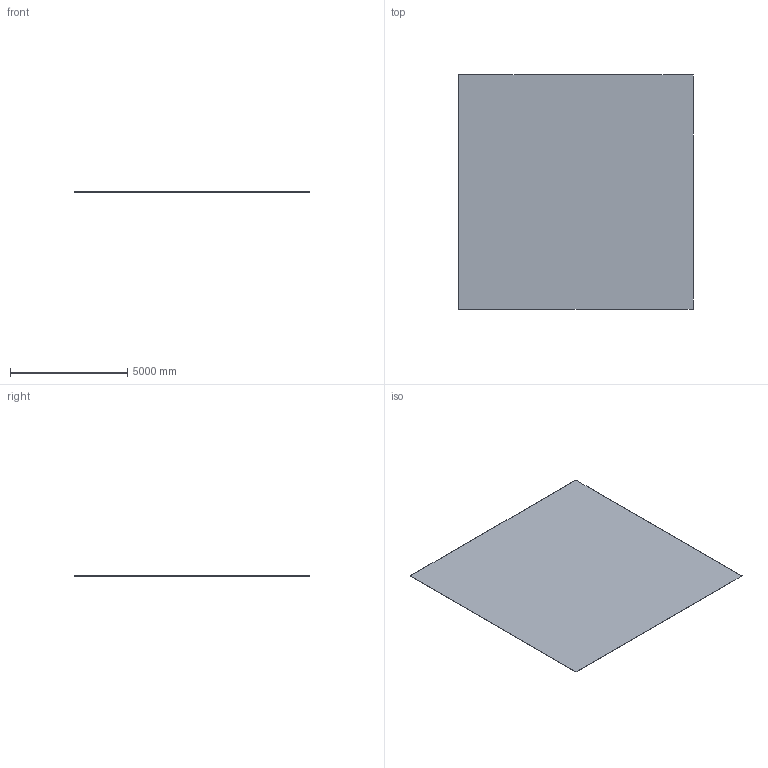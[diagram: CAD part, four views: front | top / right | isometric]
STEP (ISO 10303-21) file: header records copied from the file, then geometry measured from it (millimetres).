
FILE_DESCRIPTION(('Open CASCADE Model'),'2;1');
FILE_NAME('Open CASCADE Shape Model','2024-10-15T11:57:15',('Author'),( 'Open CASCADE'),'Open CASCADE STEP processor 7.8','Open CASCADE 7.8' ,'Unknown');
FILE_SCHEMA(('AUTOMOTIVE_DESIGN { 1 0 10303 214 1 1 1 1 }'));
Length unit declared in the file: millimetre
Products named in the file (3): OCX-MODEL1/A:nplcid1; PANEL:nplcid8; P:P1/PANEL:nplcid12
Assembly tree (2 placements, depth 3):
  OCX-MODEL1/A:nplcid1
    PANEL:nplcid8
      P:P1/PANEL:nplcid12
Bounding box: 10000 x 10000 x 10 mm (x, y, z)
Volume: 793478045.1 mm3; surface area: 186339686.1 mm2
Topology: 1 solids, 1 shells, 3 faces, 3 edges, 2 vertices
Faces by surface type: plane 2, bspline 1
Entity records: 214 total; most frequent: CARTESIAN_POINT 91, DIRECTION 14, ORIENTED_EDGE 6, PCURVE 6, DEFINITIONAL_REPRESENTATION 6, PRODUCT_DEFINITION_SHAPE 5, AXIS2_PLACEMENT_3D 5, B_SPLINE_CURVE_WITH_KNOTS 5
